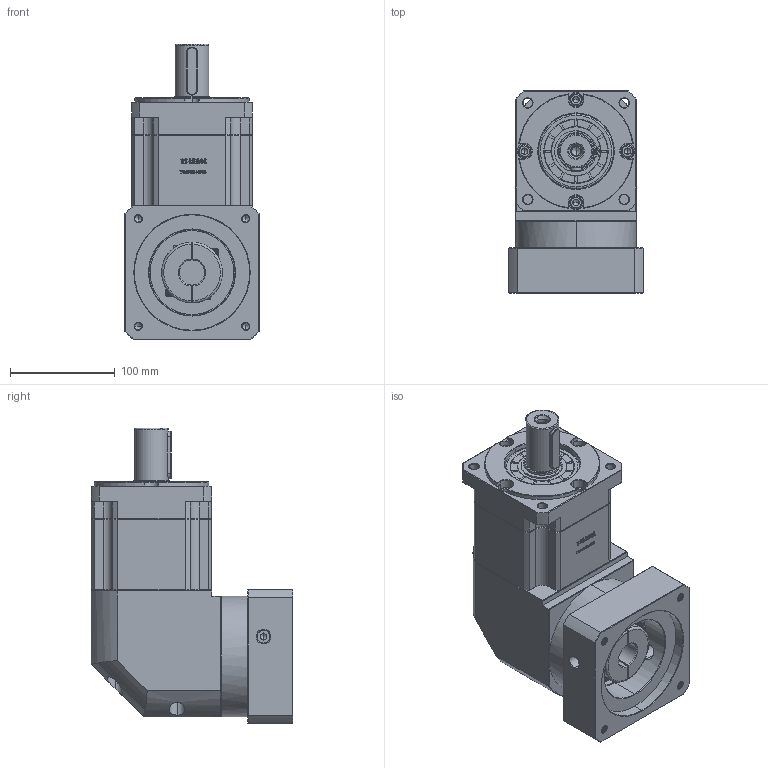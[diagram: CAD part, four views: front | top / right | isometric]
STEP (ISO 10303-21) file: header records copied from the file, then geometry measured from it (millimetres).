
FILE_DESCRIPTION (( 'STEP AP214' ), '1' );
FILE_NAME ('ZBR115A-D32-L2-24-110-145-M8.step', '2023-03-03T05:02:30', ( '' ), ( 'Microsoft' ), 'SwSTEP 2.0', 'SolidWorks 2016', '' );
FILE_SCHEMA (( 'AUTOMOTIVE_DESIGN' ));
Length unit declared in the file: millimetre
Products named in the file (1): ZBR115A-D32-L2-24-110-145-M8
Bounding box: 128 x 192.4 x 281.5 mm (x, y, z)
Volume: 3384268.8 mm3; surface area: 267409 mm2
Topology: 6 solids, 6 shells, 2982 faces, 7921 edges, 5085 vertices
Faces by surface type: plane 1559, bspline 606, cylinder 439, cone 370, torus 8
Entity records: 162096 total; most frequent: CARTESIAN_POINT 60060, ORIENTED_EDGE 15782, DIRECTION 11954, EDGE_CURVE 7891, VECTOR 5308, LINE 5308, VERTEX_POINT 5085, AXIS2_PLACEMENT_3D 3323
